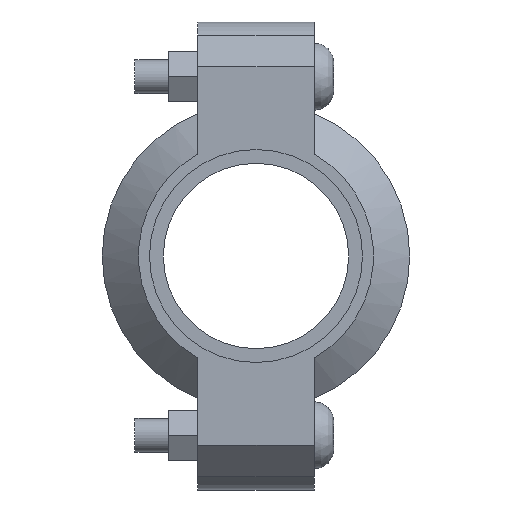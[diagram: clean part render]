
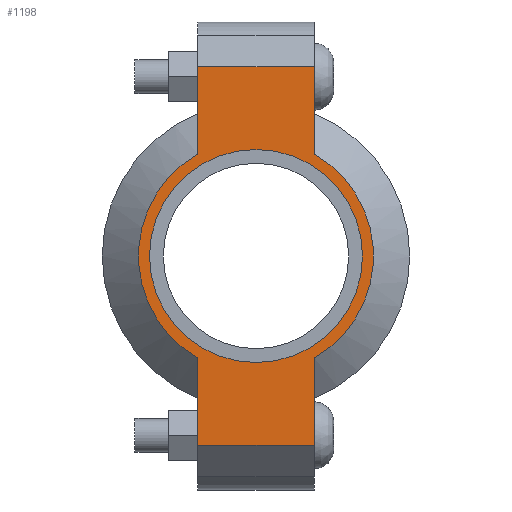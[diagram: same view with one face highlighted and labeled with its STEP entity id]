
A CAD part, left-side view. The second image highlights one B-rep face of the part: STEP entity #1198.
In plain terms, the highlighted planar face has unit normal (-1, 0, 0) as drawn and (0, 0, 1) by its records, which use the part's own axes.
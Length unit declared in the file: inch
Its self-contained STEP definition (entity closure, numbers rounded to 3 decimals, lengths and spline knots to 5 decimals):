
#95=LINE('',#2041,#180);
#103=LINE('',#2077,#188);
#110=LINE('',#2098,#195);
#119=LINE('',#2130,#204);
#120=LINE('',#2134,#205);
#121=LINE('',#2136,#206);
#180=VECTOR('',#1646,0.3937);
#188=VECTOR('',#1662,0.3937);
#195=VECTOR('',#1681,0.3937);
#204=VECTOR('',#1706,0.3937);
#205=VECTOR('',#1711,0.3937);
#206=VECTOR('',#1712,0.3937);
#246=FACE_BOUND('',#376,.T.);
#298=FACE_OUTER_BOUND('',#375,.T.);
#375=EDGE_LOOP('',(#964,#965,#966,#967,#968,#969,#970,#971));
#376=EDGE_LOOP('',(#972));
#449=CIRCLE('',#1404,1.31);
#450=CIRCLE('',#1405,1.31);
#451=CIRCLE('',#1406,1.1875);
#530=VERTEX_POINT('',#2038);
#531=VERTEX_POINT('',#2040);
#542=VERTEX_POINT('',#2072);
#543=VERTEX_POINT('',#2076);
#550=VERTEX_POINT('',#2095);
#551=VERTEX_POINT('',#2097);
#561=VERTEX_POINT('',#2133);
#562=VERTEX_POINT('',#2135);
#563=VERTEX_POINT('',#2138);
#664=EDGE_CURVE('',#531,#530,#95,.T.);
#678=EDGE_CURVE('',#543,#542,#103,.T.);
#688=EDGE_CURVE('',#551,#550,#110,.T.);
#703=EDGE_CURVE('',#543,#530,#119,.T.);
#704=EDGE_CURVE('',#542,#551,#449,.T.);
#705=EDGE_CURVE('',#561,#550,#120,.T.);
#706=EDGE_CURVE('',#561,#562,#121,.T.);
#707=EDGE_CURVE('',#562,#531,#450,.T.);
#708=EDGE_CURVE('',#563,#563,#451,.T.);
#964=ORIENTED_EDGE('',*,*,#703,.F.);
#965=ORIENTED_EDGE('',*,*,#678,.T.);
#966=ORIENTED_EDGE('',*,*,#704,.T.);
#967=ORIENTED_EDGE('',*,*,#688,.T.);
#968=ORIENTED_EDGE('',*,*,#705,.F.);
#969=ORIENTED_EDGE('',*,*,#706,.T.);
#970=ORIENTED_EDGE('',*,*,#707,.T.);
#971=ORIENTED_EDGE('',*,*,#664,.T.);
#972=ORIENTED_EDGE('',*,*,#708,.T.);
#1077=PLANE('',#1403);
#1198=ADVANCED_FACE('',(#298,#246),#1077,.T.);
#1403=AXIS2_PLACEMENT_3D('',#2131,#1707,#1708);
#1404=AXIS2_PLACEMENT_3D('',#2132,#1709,#1710);
#1405=AXIS2_PLACEMENT_3D('',#2137,#1713,#1714);
#1406=AXIS2_PLACEMENT_3D('',#2139,#1715,#1716);
#1646=DIRECTION('',(1.,0.,0.));
#1662=DIRECTION('',(-1.,0.,0.));
#1681=DIRECTION('',(-1.,0.,0.));
#1706=DIRECTION('',(0.,-1.,0.));
#1707=DIRECTION('center_axis',(0.,0.,1.));
#1708=DIRECTION('ref_axis',(-1.,0.,0.));
#1709=DIRECTION('center_axis',(0.,0.,1.));
#1710=DIRECTION('ref_axis',(1.,0.,0.));
#1711=DIRECTION('',(0.,1.,0.));
#1712=DIRECTION('',(1.,0.,0.));
#1713=DIRECTION('center_axis',(0.,0.,1.));
#1714=DIRECTION('ref_axis',(1.,0.,0.));
#1715=DIRECTION('center_axis',(0.,0.,-1.));
#1716=DIRECTION('ref_axis',(1.,0.,0.));
#2038=CARTESIAN_POINT('',(2.11,-0.65,0.94));
#2040=CARTESIAN_POINT('',(1.13737,-0.65,0.94));
#2041=CARTESIAN_POINT('',(2.61,-0.65,0.94));
#2072=CARTESIAN_POINT('',(1.13737,0.65,0.94));
#2076=CARTESIAN_POINT('',(2.11,0.65,0.94));
#2077=CARTESIAN_POINT('',(-2.61,0.65,0.94));
#2095=CARTESIAN_POINT('',(-2.11,0.65,0.94));
#2097=CARTESIAN_POINT('',(-1.13737,0.65,0.94));
#2098=CARTESIAN_POINT('',(-2.61,0.65,0.94));
#2130=CARTESIAN_POINT('',(2.11,-0.325,0.94));
#2131=CARTESIAN_POINT('Origin',(0.,0.,
0.94));
#2132=CARTESIAN_POINT('Origin',(0.,0.,0.94));
#2133=CARTESIAN_POINT('',(-2.11,-0.65,0.94));
#2134=CARTESIAN_POINT('',(-2.11,0.325,0.94));
#2135=CARTESIAN_POINT('',(-1.13737,-0.65,0.94));
#2136=CARTESIAN_POINT('',(2.61,-0.65,0.94));
#2137=CARTESIAN_POINT('Origin',(0.,0.,0.94));
#2138=CARTESIAN_POINT('',(-1.1875,0.,0.94));
#2139=CARTESIAN_POINT('Origin',(0.,0.,0.94));
